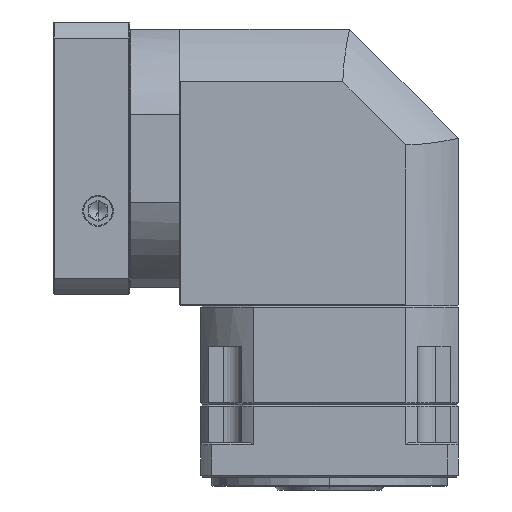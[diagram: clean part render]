
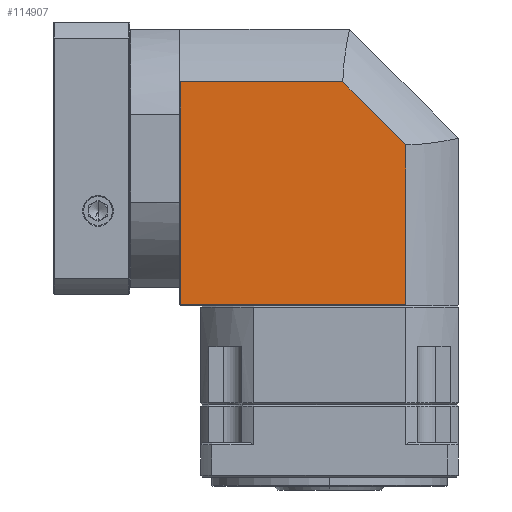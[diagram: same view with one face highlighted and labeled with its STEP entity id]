
A CAD part, left-side view. The second image highlights one B-rep face of the part: STEP entity #114907.
In plain terms, the highlighted planar face has unit normal (-1, 0, 0).
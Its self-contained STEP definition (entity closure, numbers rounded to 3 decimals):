
#4092 = PLANE ( 'NONE',  #38880 ) ;
#5754 = EDGE_CURVE ( 'NONE', #37759, #101814, #40514, .T. ) ;
#6667 = ORIENTED_EDGE ( 'NONE', *, *, #5754, .F. ) ;
#11425 = ORIENTED_EDGE ( 'NONE', *, *, #73700, .F. ) ;
#22292 = LINE ( 'NONE', #106994, #101644 ) ;
#22324 = DIRECTION ( 'NONE',  ( 0., -1., 0. ) ) ;
#23670 = EDGE_LOOP ( 'NONE', ( #110293, #11425, #61442, #43010, #6667 ) ) ;
#28169 = CARTESIAN_POINT ( 'NONE',  ( -153.86, -97.164, -118.549 ) ) ;
#28770 = CARTESIAN_POINT ( 'NONE',  ( -153.86, 21.566, -87.862 ) ) ;
#34766 = CARTESIAN_POINT ( 'NONE',  ( -153.86, 145.581, 34.853 ) ) ;
#36226 = FACE_OUTER_BOUND ( 'NONE', #23670, .T. ) ;
#36786 = LINE ( 'NONE', #75793, #69042 ) ;
#37759 = VERTEX_POINT ( 'NONE', #126833 ) ;
#38880 = AXIS2_PLACEMENT_3D ( 'NONE', #55594, #46130, #129080 ) ;
#39480 = DIRECTION ( 'NONE',  ( 0., -0.707, -0.707 ) ) ;
#40073 = DIRECTION ( 'NONE',  ( 0., 0., 1. ) ) ;
#40514 = LINE ( 'NONE', #28169, #77834 ) ;
#43010 = ORIENTED_EDGE ( 'NONE', *, *, #131382, .F. ) ;
#44524 = DIRECTION ( 'NONE',  ( 0., 0., -1. ) ) ;
#44974 = DIRECTION ( 'NONE',  ( 0., 1., 0. ) ) ;
#46130 = DIRECTION ( 'NONE',  ( -1., 0., 0. ) ) ;
#50065 = CARTESIAN_POINT ( 'NONE',  ( -153.86, 145.581, -12.262 ) ) ;
#51873 = EDGE_CURVE ( 'NONE', #102529, #37759, #103804, .T. ) ;
#55594 = CARTESIAN_POINT ( 'NONE',  ( -153.86, 69.331, -12.262 ) ) ;
#60648 = VECTOR ( 'NONE', #40073, 1000. ) ;
#61442 = ORIENTED_EDGE ( 'NONE', *, *, #102679, .F. ) ;
#69042 = VECTOR ( 'NONE', #44524, 1000. ) ;
#70740 = CARTESIAN_POINT ( 'NONE',  ( -153.86, 21.566, 0.181 ) ) ;
#71298 = VECTOR ( 'NONE', #22324, 1000. ) ;
#73700 = EDGE_CURVE ( 'NONE', #109720, #102529, #115901, .T. ) ;
#75793 = CARTESIAN_POINT ( 'NONE',  ( -153.86, 21.566, 257.214 ) ) ;
#76745 = VERTEX_POINT ( 'NONE', #28770 ) ;
#77834 = VECTOR ( 'NONE', #39480, 1000. ) ;
#89333 = CARTESIAN_POINT ( 'NONE',  ( -153.86, 145.581, -87.862 ) ) ;
#101644 = VECTOR ( 'NONE', #44974, 1000. ) ;
#101814 = VERTEX_POINT ( 'NONE', #70740 ) ;
#102529 = VERTEX_POINT ( 'NONE', #34766 ) ;
#102679 = EDGE_CURVE ( 'NONE', #76745, #109720, #22292, .T. ) ;
#103804 = LINE ( 'NONE', #115184, #71298 ) ;
#106994 = CARTESIAN_POINT ( 'NONE',  ( -153.86, 69.331, -87.862 ) ) ;
#109720 = VERTEX_POINT ( 'NONE', #89333 ) ;
#110293 = ORIENTED_EDGE ( 'NONE', *, *, #51873, .F. ) ;
#114907 = ADVANCED_FACE ( 'NONE', ( #36226 ), #4092, .T. ) ;
#115184 = CARTESIAN_POINT ( 'NONE',  ( -153.86, -212.217, 34.853 ) ) ;
#115901 = LINE ( 'NONE', #50065, #60648 ) ;
#126833 = CARTESIAN_POINT ( 'NONE',  ( -153.86, 56.239, 34.853 ) ) ;
#129080 = DIRECTION ( 'NONE',  ( 0., 0., -1. ) ) ;
#131382 = EDGE_CURVE ( 'NONE', #101814, #76745, #36786, .T. ) ;
